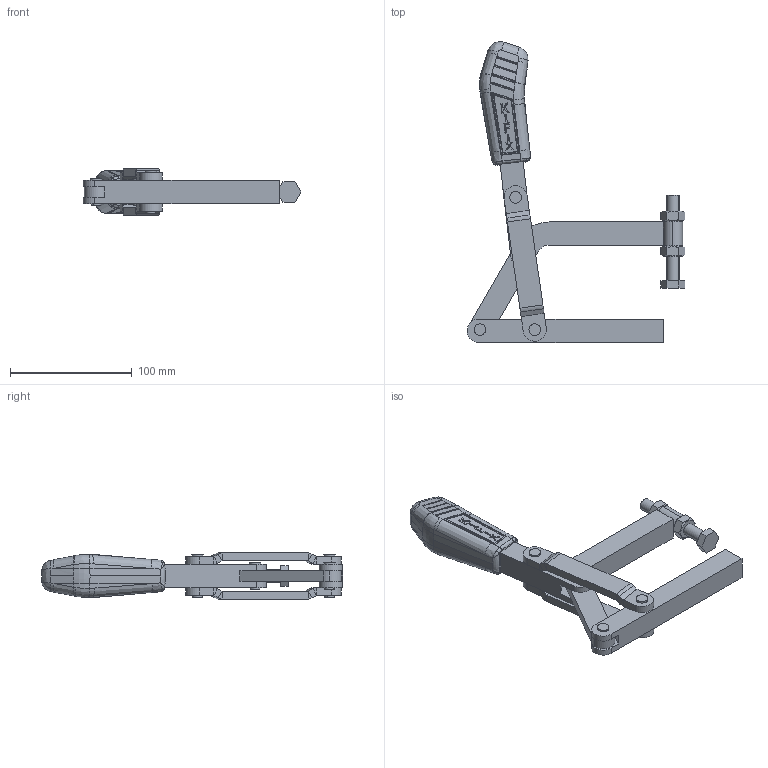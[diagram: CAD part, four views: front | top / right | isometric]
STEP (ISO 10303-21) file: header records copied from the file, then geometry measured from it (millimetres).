
FILE_DESCRIPTION (( 'STEP AP203' ), '1' );
FILE_NAME ('KF-06 MP.STEP', '2015-07-16T19:12:39', ( 'Ricardo' ), ( '' ), 'SwSTEP 2.0', 'SolidWorks 2014', '' );
FILE_SCHEMA (( 'CONFIG_CONTROL_DESIGN' ));
Length unit declared in the file: millimetre
Products named in the file (12): 11.50003; 12.50004; 02.10009; PSB-M10; 03.15009_Montagem; 07.60202; 01.20003; KF-06 MP; 08.10014; 06.50016; 06.50017; 20.20005
Assembly tree (15 placements, depth 3):
  KF-06 MP
    02.10009
    03.15009_Montagem
    01.20003
    08.10014  x2
    06.50016  x2
    06.50017  x2
    PSB-M10
      20.20005
      11.50003  x2
      12.50004
    07.60202
Bounding box: 178.64 x 246.94 x 37.75 mm (x, y, z)
Volume: 268853.2 mm3; surface area: 84686.1 mm2
Topology: 14 solids, 14 shells, 739 faces, 1873 edges, 1170 vertices
Faces by surface type: bspline 271, plane 232, cylinder 143, sphere 52, cone 38, torus 3
Entity records: 28343 total; most frequent: CARTESIAN_POINT 13602, ORIENTED_EDGE 3344, DIRECTION 1956, EDGE_CURVE 1672, VERTEX_POINT 1060, B_SPLINE_CURVE_WITH_KNOTS 851, AXIS2_PLACEMENT_3D 758, EDGE_LOOP 706
